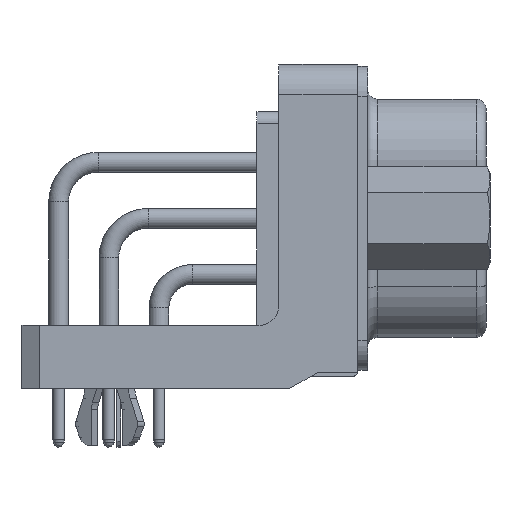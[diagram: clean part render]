
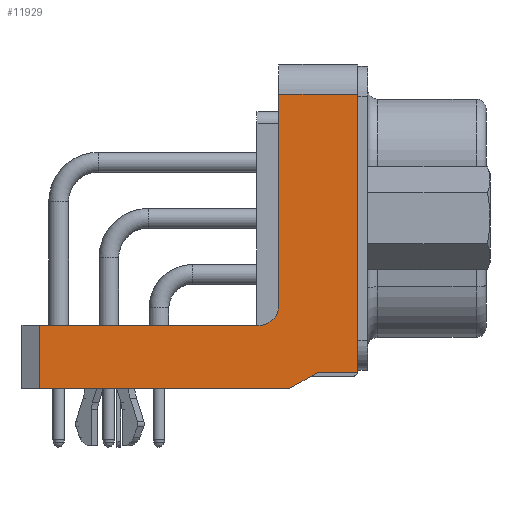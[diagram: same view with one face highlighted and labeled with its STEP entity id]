
A CAD part, front view. The second image highlights one B-rep face of the part: STEP entity #11929.
In plain terms, the highlighted planar face has unit normal (0, -1, 0).
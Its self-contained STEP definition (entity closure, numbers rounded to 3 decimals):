
#10192=FACE_OUTER_BOUND('',#19310,.T.);
#11929=ADVANCED_FACE('',(#10192),#13455,.T.);
#13455=PLANE('',#36967);
#14126=LINE('',#47487,#15648);
#14204=LINE('',#47939,#15726);
#14219=LINE('',#47975,#15741);
#14227=LINE('',#47991,#15749);
#14356=LINE('',#48742,#15878);
#14392=LINE('',#48823,#15914);
#14393=LINE('',#48827,#15915);
#14394=LINE('',#48829,#15916);
#15648=VECTOR('',#39762,1.);
#15726=VECTOR('',#40174,1.);
#15741=VECTOR('',#40195,1.);
#15749=VECTOR('',#40205,1.);
#15878=VECTOR('',#40882,1.);
#15914=VECTOR('',#40946,1.);
#15915=VECTOR('',#40951,1.);
#15916=VECTOR('',#40954,1.);
#19310=EDGE_LOOP('',(#22353,#22354,#22355,#22356,#22357,#22358,#22359,#22360,
#22361));
#22353=ORIENTED_EDGE('',*,*,#30500,.F.);
#22354=ORIENTED_EDGE('',*,*,#30920,.T.);
#22355=ORIENTED_EDGE('',*,*,#30918,.F.);
#22356=ORIENTED_EDGE('',*,*,#30921,.T.);
#22357=ORIENTED_EDGE('',*,*,#30292,.F.);
#22358=ORIENTED_EDGE('',*,*,#30922,.T.);
#22359=ORIENTED_EDGE('',*,*,#30517,.F.);
#22360=ORIENTED_EDGE('',*,*,#30525,.F.);
#22361=ORIENTED_EDGE('',*,*,#30876,.F.);
#27939=VERTEX_POINT('',#47486);
#27940=VERTEX_POINT('',#47488);
#28147=VERTEX_POINT('',#47940);
#28148=VERTEX_POINT('',#47941);
#28164=VERTEX_POINT('',#47974);
#28165=VERTEX_POINT('',#47976);
#28171=VERTEX_POINT('',#47990);
#28541=VERTEX_POINT('',#48804);
#28550=VERTEX_POINT('',#48822);
#30292=EDGE_CURVE('',#27939,#27940,#14126,.T.);
#30500=EDGE_CURVE('',#28147,#28148,#14204,.T.);
#30517=EDGE_CURVE('',#28164,#28165,#14219,.T.);
#30525=EDGE_CURVE('',#28171,#28164,#14227,.T.);
#30876=EDGE_CURVE('',#28148,#28171,#14356,.T.);
#30918=EDGE_CURVE('',#28550,#28541,#14392,.T.);
#30920=EDGE_CURVE('',#28147,#28541,#14393,.T.);
#30921=EDGE_CURVE('',#28550,#27940,#33759,.T.);
#30922=EDGE_CURVE('',#27939,#28165,#14394,.T.);
#33759=CIRCLE('',#36966,1.);
#36966=AXIS2_PLACEMENT_3D('',#48828,#40952,#40953);
#36967=AXIS2_PLACEMENT_3D('',#48830,#40955,#40956);
#39762=DIRECTION('',(1.,0.,0.));
#40174=DIRECTION('',(0.,0.,-1.));
#40195=DIRECTION('',(-1.,0.,0.));
#40205=DIRECTION('',(-0.866,0.,-0.5));
#40882=DIRECTION('',(-1.,0.,0.));
#40946=DIRECTION('',(0.,0.,1.));
#40951=DIRECTION('',(-1.,0.,0.));
#40952=DIRECTION('',(0.,1.,0.));
#40953=DIRECTION('',(0.,0.,-1.));
#40954=DIRECTION('',(0.,0.,-1.));
#40955=DIRECTION('',(0.,-1.,0.));
#40956=DIRECTION('',(0.,0.,-1.));
#47486=CARTESIAN_POINT('',(-16.134,-33.5,2.37));
#47487=CARTESIAN_POINT('',(-4.,-33.5,2.37));
#47488=CARTESIAN_POINT('',(-5.,-33.5,2.37));
#47939=CARTESIAN_POINT('',(0.,-33.5,0.));
#47940=CARTESIAN_POINT('',(0.,-33.5,14.08));
#47941=CARTESIAN_POINT('',(0.,-33.5,0.));
#47974=CARTESIAN_POINT('',(-3.438,-33.5,-0.83));
#47975=CARTESIAN_POINT('',(-17.,-33.5,-0.83));
#47976=CARTESIAN_POINT('',(-16.134,-33.5,-0.83));
#47990=CARTESIAN_POINT('',(-2.,-33.5,0.));
#47991=CARTESIAN_POINT('',(-3.438,-33.5,-0.83));
#48742=CARTESIAN_POINT('',(-2.,-33.5,0.));
#48804=CARTESIAN_POINT('',(-4.,-33.5,14.08));
#48822=CARTESIAN_POINT('',(-4.,-33.5,3.37));
#48823=CARTESIAN_POINT('',(-4.,-33.5,15.58));
#48827=CARTESIAN_POINT('',(-4.,-33.5,14.08));
#48828=CARTESIAN_POINT('',(-5.,-33.5,3.37));
#48829=CARTESIAN_POINT('',(-16.134,-33.5,-0.83));
#48830=CARTESIAN_POINT('',(0.,-33.5,-0.83));
